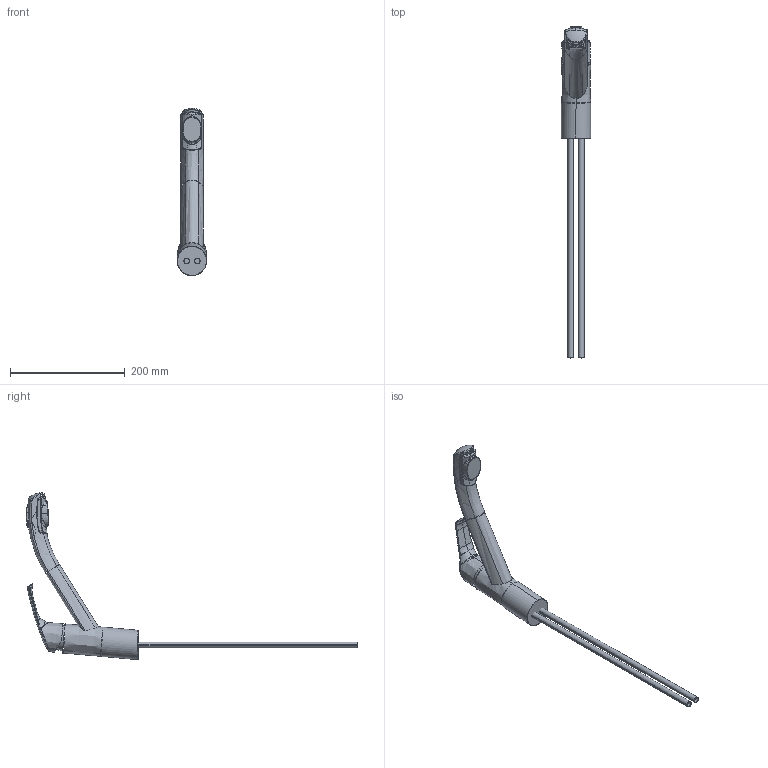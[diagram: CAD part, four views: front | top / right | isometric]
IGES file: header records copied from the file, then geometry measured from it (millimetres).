
Start section:  PTC IGES file: 67120_web.igs
Global section: file name: 67120_web.igs; native system: Creo Parametric by PTC Inc.; preprocessor: 2017380; author: jaj; organization: Unknown; date: 20180904.085630; units: millimetre
Bounding box: 51 x 577.76 x 291.26 mm (x, y, z)
Surface area: 119392.1 mm2 (no closed solid volume)
Topology: 0 solids, 0 shells, 221 faces, 1124 edges, 1180 vertices
Faces by surface type: bspline 156, revolution 55, extrusion 10
